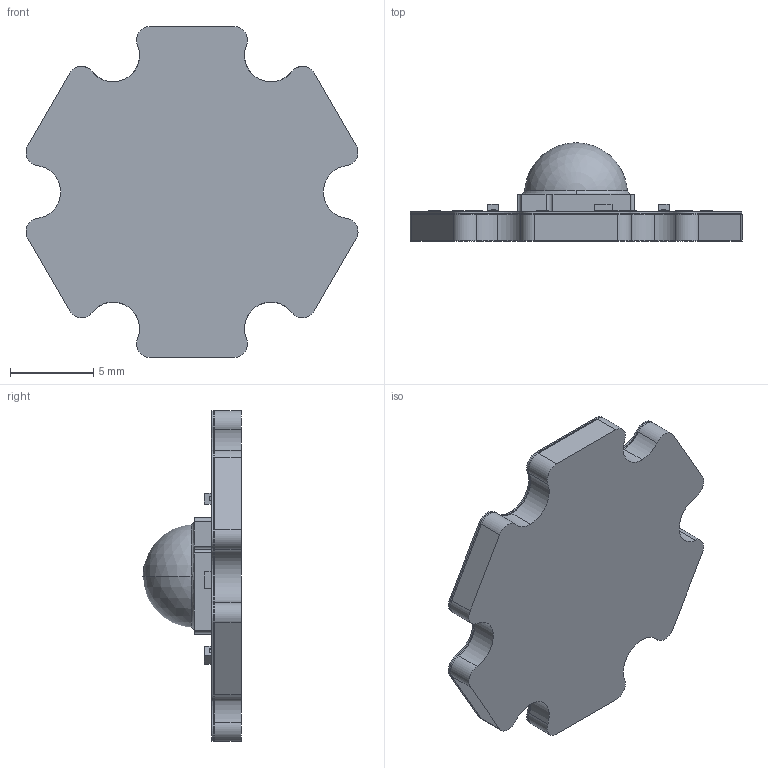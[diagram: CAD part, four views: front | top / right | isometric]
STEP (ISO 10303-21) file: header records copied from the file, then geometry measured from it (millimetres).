
FILE_DESCRIPTION (( 'STEP AP214' ), '1' );
FILE_NAME ('LZ4-20XX00-P3_LZ4-4Chan-MCPCB_RevA3.STEP', '2012-11-14T17:17:40', ( '' ), ( '' ), 'SwSTEP 2.0', 'SolidWorks 2011', '' );
FILE_SCHEMA (( 'AUTOMOTIVE_DESIGN' ));
Length unit declared in the file: millimetre
Products named in the file (1): LZ4-20XX00-P3_LZ4-4Chan-MCPCB_RevA3
Bounding box: 19.97 x 5.9 x 19.9 mm (x, y, z)
Volume: 604.8 mm3; surface area: 2257.2 mm2
Topology: 75 solids, 75 shells, 1145 faces, 2967 edges, 1973 vertices
Faces by surface type: plane 852, cylinder 166, bspline 121, cone 4, sphere 2
Entity records: 53602 total; most frequent: CARTESIAN_POINT 12585, ORIENTED_EDGE 5922, DIRECTION 5126, EDGE_CURVE 2961, VECTOR 2374, LINE 2374, VERTEX_POINT 1971, AXIS2_PLACEMENT_3D 1376
